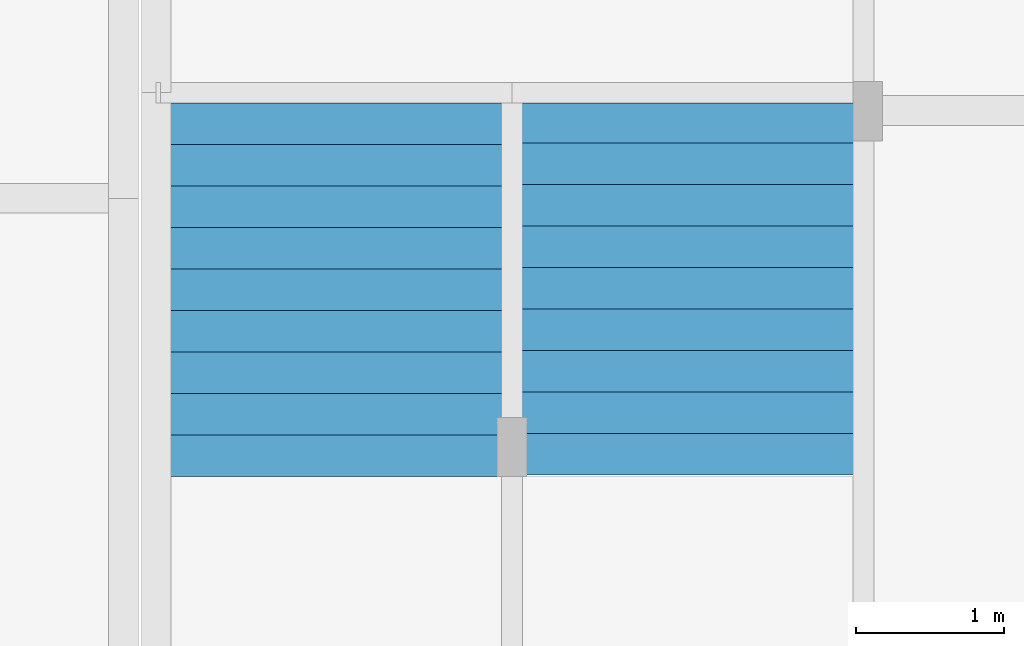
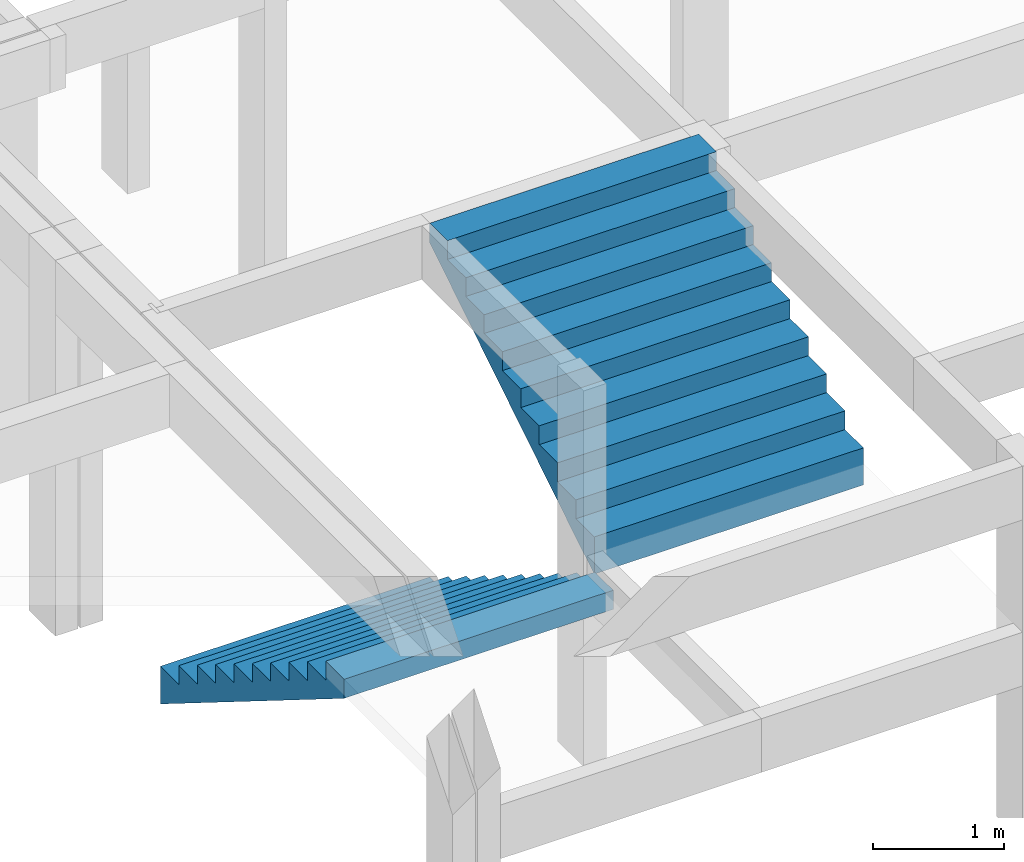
# One storey, part 5 of 5: 2 stair flights.
"""IFC4 building model written with IfcOpenShell, lengths in centimetres."""

from ifc_helpers import new_model, si_unit, derived_unit, frame, origin, origin_with_axes, place, context, project, spatial, faceted_brep, material, element, save


model = new_model("IFC4")

# Units and contexts
model_context = context("Model", 3, precision=1e-05, world=origin_with_axes(), identifier="Body")
ifc_project = project(units=[si_unit("LENGTHUNIT", "METRE", prefix="CENTI"), si_unit("VOLUMEUNIT", "CUBIC_METRE"), si_unit("AREAUNIT", "SQUARE_METRE"), si_unit("POWERUNIT", "WATT"), si_unit("LUMINOUSFLUXUNIT", "LUMEN"), si_unit("ELECTRICCURRENTUNIT", "AMPERE"), si_unit("PRESSUREUNIT", "PASCAL", prefix="KILO"), si_unit("MASSUNIT", "GRAM", prefix="KILO"), si_unit("PLANEANGLEUNIT", "RADIAN"), derived_unit("VOLUMETRICFLOWRATEUNIT", [(si_unit("LENGTHUNIT", "METRE"), 3), (si_unit("TIMEUNIT", "SECOND"), -1)])], contexts=[model_context])

# Site, building, storey
site_placement = place(None, origin_with_axes())
site = spatial("IfcSite", under=ifc_project, at=site_placement)
building_placement = place(site_placement, origin())
building = spatial("IfcBuilding", under=site, at=building_placement)
placement_1 = place(building_placement, origin_with_axes())
placement_2 = place(placement_1, frame((0.0, 0.0, 550.0), z_axis=(0.0, 0.0, 1.0), x_axis=(1.0, 0.0, 0.0)))
storey_placement = place(placement_2, frame((0.0, 0.0, 350.0), z_axis=(0.0, 0.0, 1.0), x_axis=(1.0, 0.0, 0.0)))
storey = spatial("IfcBuildingStorey", under=building, at=storey_placement, Name="1º PAV.", CompositionType="ELEMENT", Elevation=900.0)

# Stair flights
ifc_material = material(Name="Concreto")
stair_flight_1_placement = place(storey_placement, frame((2785.1, -978.1, -172.0), z_axis=(0.0, 0.0, 1.0), x_axis=(1.0, 0.0, 0.0)))
element("IfcStairFlight", 1, at=stair_flight_1_placement, inside=storey, material=ifc_material, Name="LE1", NumberOfRisers=0, NumberOfTreads=0, context=model_context, shape_type="Brep", body=[
    faceted_brep([(118.5, -140.0, 0.0), (118.5, -112.0, 0.0), (-118.5, -112.0, 0.0), (-118.5, -140.0, 0.0), (118.5, -112.0, -35.188714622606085), (118.5, -140.0, -17.688714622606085), (-118.5, -140.0, -17.688714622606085), (-118.5, -112.0, -35.188714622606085), (118.5, -140.0, -17.688714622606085), (118.5, -140.0, 0.0), (-118.5, -140.0, 0.0), (-118.5, -140.0, -17.688714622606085), (118.5, -112.0, 0.0), (118.5, -112.0, -35.188714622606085), (-118.5, -112.0, -35.188714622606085), (-118.5, -112.0, 0.0), (-118.5, -112.0, -35.188714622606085), (-118.5, -140.0, -17.688714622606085), (-118.5, -140.0, 0.0), (-118.5, -112.0, 0.0), (118.5, -112.0, -35.188714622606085), (118.5, -112.0, 0.0), (118.5, -140.0, 0.0), (118.5, -140.0, -17.688714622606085), (118.5, -112.0, -17.5), (118.5, -84.0, -17.5), (-118.5, -84.0, -17.5), (-118.5, -112.0, -17.5), (118.5, -84.0, -52.688714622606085), (118.5, -112.0, -35.188714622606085), (-118.5, -112.0, -35.188714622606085), (-118.5, -84.0, -52.688714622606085), (118.5, -112.0, -35.188714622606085), (118.5, -112.0, -17.5), (-118.5, -112.0, -17.5), (-118.5, -112.0, -35.188714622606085), (118.5, -84.0, -17.5), (118.5, -84.0, -52.688714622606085), (-118.5, -84.0, -52.688714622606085), (-118.5, -84.0, -17.5), (-118.5, -84.0, -52.688714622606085), (-118.5, -112.0, -35.188714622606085), (-118.5, -112.0, -17.5), (-118.5, -84.0, -17.5), (118.5, -84.0, -52.688714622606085), (118.5, -84.0, -17.5), (118.5, -112.0, -17.5), (118.5, -112.0, -35.188714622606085), (118.5, -84.0, -35.0), (118.5, -56.0, -35.0), (-118.5, -56.0, -35.0), (-118.5, -84.0, -35.0), (118.5, -56.0, -70.18871462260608), (118.5, -84.0, -52.688714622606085), (-118.5, -84.0, -52.688714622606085), (-118.5, -56.0, -70.18871462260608), (118.5, -84.0, -52.688714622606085), (118.5, -84.0, -35.0), (-118.5, -84.0, -35.0), (-118.5, -84.0, -52.688714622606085), (118.5, -56.0, -35.0), (118.5, -56.0, -70.18871462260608), (-118.5, -56.0, -70.18871462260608), (-118.5, -56.0, -35.0), (-118.5, -56.0, -70.18871462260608), (-118.5, -84.0, -52.688714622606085), (-118.5, -84.0, -35.0), (-118.5, -56.0, -35.0), (118.5, -56.0, -70.18871462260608), (118.5, -56.0, -35.0), (118.5, -84.0, -35.0), (118.5, -84.0, -52.688714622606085), (118.5, -56.0, -52.5), (118.5, -28.0, -52.5), (-118.5, -28.0, -52.5), (-118.5, -56.0, -52.5), (118.5, -28.0, -87.68871462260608), (118.5, -56.0, -70.18871462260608), (-118.5, -56.0, -70.18871462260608), (-118.5, -28.0, -87.68871462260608), (118.5, -56.0, -70.18871462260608), (118.5, -56.0, -52.5), (-118.5, -56.0, -52.5), (-118.5, -56.0, -70.18871462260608), (118.5, -28.0, -52.5), (118.5, -28.0, -87.68871462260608), (-118.5, -28.0, -87.68871462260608), (-118.5, -28.0, -52.5), (-118.5, -28.0, -87.68871462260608), (-118.5, -56.0, -70.18871462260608), (-118.5, -56.0, -52.5), (-118.5, -28.0, -52.5), (118.5, -28.0, -87.68871462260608), (118.5, -28.0, -52.5), (118.5, -56.0, -52.5), (118.5, -56.0, -70.18871462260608), (118.5, -28.0, -70.0), (118.5, 0.0, -70.0), (-118.5, 0.0, -70.0), (-118.5, -28.0, -70.0), (118.5, 0.0, -105.18871462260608), (118.5, -28.0, -87.68871462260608), (-118.5, -28.0, -87.68871462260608), (-118.5, 0.0, -105.18871462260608), (118.5, -28.0, -87.68871462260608), (118.5, -28.0, -70.0), (-118.5, -28.0, -70.0), (-118.5, -28.0, -87.68871462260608), (118.5, 0.0, -70.0), (118.5, 0.0, -105.18871462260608), (-118.5, 0.0, -105.18871462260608), (-118.5, 0.0, -70.0), (-118.5, 0.0, -105.18871462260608), (-118.5, -28.0, -87.68871462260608), (-118.5, -28.0, -70.0), (-118.5, 0.0, -70.0), (118.5, 0.0, -105.18871462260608), (118.5, 0.0, -70.0), (118.5, -28.0, -70.0), (118.5, -28.0, -87.68871462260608), (118.5, 0.0, -87.5), (118.5, 28.0, -87.5), (-118.5, 28.0, -87.5), (-118.5, 0.0, -87.5), (118.5, 28.0, -122.68871462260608), (118.5, 0.0, -105.18871462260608), (-118.5, 0.0, -105.18871462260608), (-118.5, 28.0, -122.68871462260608), (118.5, 0.0, -105.18871462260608), (118.5, 0.0, -87.5), (-118.5, 0.0, -87.5), (-118.5, 0.0, -105.18871462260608), (118.5, 28.0, -87.5), (118.5, 28.0, -122.68871462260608), (-118.5, 28.0, -122.68871462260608), (-118.5, 28.0, -87.5), (-118.5, 28.0, -122.68871462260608), (-118.5, 0.0, -105.18871462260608), (-118.5, 0.0, -87.5), (-118.5, 28.0, -87.5), (118.5, 28.0, -122.68871462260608), (118.5, 28.0, -87.5), (118.5, 0.0, -87.5), (118.5, 0.0, -105.18871462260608), (118.5, 28.0, -105.0), (118.5, 56.0, -105.0), (-118.5, 56.0, -105.0), (-118.5, 28.0, -105.0), (118.5, 56.0, -140.18871462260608), (118.5, 28.0, -122.68871462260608), (-118.5, 28.0, -122.68871462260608), (-118.5, 56.0, -140.18871462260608), (118.5, 28.0, -122.68871462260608), (118.5, 28.0, -105.0), (-118.5, 28.0, -105.0), (-118.5, 28.0, -122.68871462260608), (118.5, 56.0, -105.0), (118.5, 56.0, -140.18871462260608), (-118.5, 56.0, -140.18871462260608), (-118.5, 56.0, -105.0), (-118.5, 56.0, -140.18871462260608), (-118.5, 28.0, -122.68871462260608), (-118.5, 28.0, -105.0), (-118.5, 56.0, -105.0), (118.5, 56.0, -140.18871462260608), (118.5, 56.0, -105.0), (118.5, 28.0, -105.0), (118.5, 28.0, -122.68871462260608), (118.5, 56.0, -122.5), (118.5, 84.0, -122.5), (-118.5, 84.0, -122.5), (-118.5, 56.0, -122.5), (118.5, 84.0, -157.68871462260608), (118.5, 56.0, -140.18871462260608), (-118.5, 56.0, -140.18871462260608), (-118.5, 84.0, -157.68871462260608), (118.5, 56.0, -140.18871462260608), (118.5, 56.0, -122.5), (-118.5, 56.0, -122.5), (-118.5, 56.0, -140.18871462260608), (118.5, 84.0, -122.5), (118.5, 84.0, -157.68871462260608), (-118.5, 84.0, -157.68871462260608), (-118.5, 84.0, -122.5), (-118.5, 84.0, -157.68871462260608), (-118.5, 56.0, -140.18871462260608), (-118.5, 56.0, -122.5), (-118.5, 84.0, -122.5), (118.5, 84.0, -157.68871462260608), (118.5, 84.0, -122.5), (118.5, 56.0, -122.5), (118.5, 56.0, -140.18871462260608), (118.5, 84.0, -140.0), (118.5, 112.0, -140.0), (-118.5, 112.0, -140.0), (-118.5, 84.0, -140.0), (118.5, 112.0, -175.18871462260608), (118.5, 84.0, -157.68871462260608), (-118.5, 84.0, -157.68871462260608), (-118.5, 112.0, -175.18871462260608), (118.5, 84.0, -157.68871462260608), (118.5, 84.0, -140.0), (-118.5, 84.0, -140.0), (-118.5, 84.0, -157.68871462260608), (118.5, 112.0, -140.0), (118.5, 112.0, -175.18871462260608), (-118.5, 112.0, -175.18871462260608), (-118.5, 112.0, -140.0), (-118.5, 112.0, -175.18871462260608), (-118.5, 84.0, -157.68871462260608), (-118.5, 84.0, -140.0), (-118.5, 112.0, -140.0), (118.5, 112.0, -175.18871462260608), (118.5, 112.0, -140.0), (118.5, 84.0, -140.0), (118.5, 84.0, -157.68871462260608), (118.5, 112.0, -157.5), (118.5, 140.0, -157.5), (-118.5, 140.0, -157.5), (-118.5, 112.0, -157.5), (118.5, 140.0, -192.68871462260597), (118.5, 112.0, -175.18871462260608), (-118.5, 112.0, -175.18871462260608), (-118.5, 140.0, -192.68871462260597), (118.5, 112.0, -175.18871462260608), (118.5, 112.0, -157.5), (-118.5, 112.0, -157.5), (-118.5, 112.0, -175.18871462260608), (118.5, 140.0, -157.5), (118.5, 140.0, -192.68871462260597), (-118.5, 140.0, -192.68871462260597), (-118.5, 140.0, -157.5), (-118.5, 140.0, -192.68871462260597), (-118.5, 112.0, -175.18871462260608), (-118.5, 112.0, -157.5), (-118.5, 140.0, -157.5), (118.5, 140.0, -192.68871462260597), (118.5, 140.0, -157.5), (118.5, 112.0, -157.5), (118.5, 112.0, -175.18871462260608)], [[[0, 1, 2, 3]], [[4, 5, 6, 7]], [[8, 9, 10, 11]], [[12, 13, 14, 15]], [[16, 17, 18, 19]], [[20, 21, 22, 23]], [[24, 25, 26, 27]], [[28, 29, 30, 31]], [[32, 33, 34, 35]], [[36, 37, 38, 39]], [[40, 41, 42, 43]], [[44, 45, 46, 47]], [[48, 49, 50, 51]], [[52, 53, 54, 55]], [[56, 57, 58, 59]], [[60, 61, 62, 63]], [[64, 65, 66, 67]], [[68, 69, 70, 71]], [[72, 73, 74, 75]], [[76, 77, 78, 79]], [[80, 81, 82, 83]], [[84, 85, 86, 87]], [[88, 89, 90, 91]], [[92, 93, 94, 95]], [[96, 97, 98, 99]], [[100, 101, 102, 103]], [[104, 105, 106, 107]], [[108, 109, 110, 111]], [[112, 113, 114, 115]], [[116, 117, 118, 119]], [[120, 121, 122, 123]], [[124, 125, 126, 127]], [[128, 129, 130, 131]], [[132, 133, 134, 135]], [[136, 137, 138, 139]], [[140, 141, 142, 143]], [[144, 145, 146, 147]], [[148, 149, 150, 151]], [[152, 153, 154, 155]], [[156, 157, 158, 159]], [[160, 161, 162, 163]], [[164, 165, 166, 167]], [[168, 169, 170, 171]], [[172, 173, 174, 175]], [[176, 177, 178, 179]], [[180, 181, 182, 183]], [[184, 185, 186, 187]], [[188, 189, 190, 191]], [[192, 193, 194, 195]], [[196, 197, 198, 199]], [[200, 201, 202, 203]], [[204, 205, 206, 207]], [[208, 209, 210, 211]], [[212, 213, 214, 215]], [[216, 217, 218, 219]], [[220, 221, 222, 223]], [[224, 225, 226, 227]], [[228, 229, 230, 231]], [[232, 233, 234, 235]], [[236, 237, 238, 239]]]),
])
stair_flight_2_placement = place(storey_placement, frame((3022.1, -963.6, 0.0), z_axis=(0.0, 0.0, 1.0), x_axis=(1.0, 0.0, 0.0)))
element("IfcStairFlight", 2, at=stair_flight_2_placement, inside=storey, material=ifc_material, Name="LE4", NumberOfRisers=0, NumberOfTreads=0, context=model_context, shape_type="Brep", body=[
    faceted_brep([(-118.5, 125.5, 0.0), (-118.5, 98.5, 0.0), (118.5, 98.5, 0.0), (118.5, 125.5, 0.0), (-118.5, 98.5, -35.188714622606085), (-118.5, 125.5, -18.313714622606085), (118.5, 125.5, -18.313714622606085), (118.5, 98.5, -35.188714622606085), (-118.5, 125.5, -18.313714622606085), (-118.5, 125.5, 0.0), (118.5, 125.5, 0.0), (118.5, 125.5, -18.313714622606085), (-118.5, 98.5, 0.0), (-118.5, 98.5, -35.188714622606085), (118.5, 98.5, -35.188714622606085), (118.5, 98.5, 0.0), (118.5, 98.5, -35.188714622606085), (118.5, 125.5, -18.313714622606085), (118.5, 125.5, 0.0), (118.5, 98.5, 0.0), (-118.5, 98.5, -35.188714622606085), (-118.5, 98.5, 0.0), (-118.5, 125.5, 0.0), (-118.5, 125.5, -18.313714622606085), (-118.5, 98.5, -17.5), (-118.5, 70.5, -17.5), (118.5, 70.5, -17.5), (118.5, 98.5, -17.5), (-118.5, 70.5, -52.688714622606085), (-118.5, 98.5, -35.188714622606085), (118.5, 98.5, -35.188714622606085), (118.5, 70.5, -52.688714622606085), (-118.5, 98.5, -35.188714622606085), (-118.5, 98.5, -17.5), (118.5, 98.5, -17.5), (118.5, 98.5, -35.188714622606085), (-118.5, 70.5, -17.5), (-118.5, 70.5, -52.688714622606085), (118.5, 70.5, -52.688714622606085), (118.5, 70.5, -17.5), (118.5, 70.5, -52.688714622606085), (118.5, 98.5, -35.188714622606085), (118.5, 98.5, -17.5), (118.5, 70.5, -17.5), (-118.5, 70.5, -52.688714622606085), (-118.5, 70.5, -17.5), (-118.5, 98.5, -17.5), (-118.5, 98.5, -35.188714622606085), (-118.5, 70.5, -35.0), (-118.5, 42.5, -35.0), (118.5, 42.5, -35.0), (118.5, 70.5, -35.0), (-118.5, 42.5, -70.18871462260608), (-118.5, 70.5, -52.688714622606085), (118.5, 70.5, -52.688714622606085), (118.5, 42.5, -70.18871462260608), (-118.5, 70.5, -52.688714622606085), (-118.5, 70.5, -35.0), (118.5, 70.5, -35.0), (118.5, 70.5, -52.688714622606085), (-118.5, 42.5, -35.0), (-118.5, 42.5, -70.18871462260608), (118.5, 42.5, -70.18871462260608), (118.5, 42.5, -35.0), (118.5, 42.5, -70.18871462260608), (118.5, 70.5, -52.688714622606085), (118.5, 70.5, -35.0), (118.5, 42.5, -35.0), (-118.5, 42.5, -70.18871462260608), (-118.5, 42.5, -35.0), (-118.5, 70.5, -35.0), (-118.5, 70.5, -52.688714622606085), (-118.5, 42.5, -52.5), (-118.5, 14.5, -52.5), (118.5, 14.5, -52.5), (118.5, 42.5, -52.5), (-118.5, 14.5, -87.68871462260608), (-118.5, 42.5, -70.18871462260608), (118.5, 42.5, -70.18871462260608), (118.5, 14.5, -87.68871462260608), (-118.5, 42.5, -70.18871462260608), (-118.5, 42.5, -52.5), (118.5, 42.5, -52.5), (118.5, 42.5, -70.18871462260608), (-118.5, 14.5, -52.5), (-118.5, 14.5, -87.68871462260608), (118.5, 14.5, -87.68871462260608), (118.5, 14.5, -52.5), (118.5, 14.5, -87.68871462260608), (118.5, 42.5, -70.18871462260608), (118.5, 42.5, -52.5), (118.5, 14.5, -52.5), (-118.5, 14.5, -87.68871462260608), (-118.5, 14.5, -52.5), (-118.5, 42.5, -52.5), (-118.5, 42.5, -70.18871462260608), (-118.5, 14.5, -70.0), (-118.5, -13.5, -70.0), (118.5, -13.5, -70.0), (118.5, 14.5, -70.0), (-118.5, -13.5, -105.18871462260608), (-118.5, 14.5, -87.68871462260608), (118.5, 14.5, -87.68871462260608), (118.5, -13.5, -105.18871462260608), (-118.5, 14.5, -87.68871462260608), (-118.5, 14.5, -70.0), (118.5, 14.5, -70.0), (118.5, 14.5, -87.68871462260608), (-118.5, -13.5, -70.0), (-118.5, -13.5, -105.18871462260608), (118.5, -13.5, -105.18871462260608), (118.5, -13.5, -70.0), (118.5, -13.5, -105.18871462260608), (118.5, 14.5, -87.68871462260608), (118.5, 14.5, -70.0), (118.5, -13.5, -70.0), (-118.5, -13.5, -105.18871462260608), (-118.5, -13.5, -70.0), (-118.5, 14.5, -70.0), (-118.5, 14.5, -87.68871462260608), (-118.5, -13.5, -87.5), (-118.5, -41.5, -87.5), (118.5, -41.5, -87.5), (118.5, -13.5, -87.5), (-118.5, -41.5, -122.68871462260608), (-118.5, -13.5, -105.18871462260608), (118.5, -13.5, -105.18871462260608), (118.5, -41.5, -122.68871462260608), (-118.5, -13.5, -105.18871462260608), (-118.5, -13.5, -87.5), (118.5, -13.5, -87.5), (118.5, -13.5, -105.18871462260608), (-118.5, -41.5, -87.5), (-118.5, -41.5, -122.68871462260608), (118.5, -41.5, -122.68871462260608), (118.5, -41.5, -87.5), (118.5, -41.5, -122.68871462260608), (118.5, -13.5, -105.18871462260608), (118.5, -13.5, -87.5), (118.5, -41.5, -87.5), (-118.5, -41.5, -122.68871462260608), (-118.5, -41.5, -87.5), (-118.5, -13.5, -87.5), (-118.5, -13.5, -105.18871462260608), (-118.5, -41.5, -105.0), (-118.5, -69.5, -105.0), (118.5, -69.5, -105.0), (118.5, -41.5, -105.0), (-118.5, -69.5, -140.18871462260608), (-118.5, -41.5, -122.68871462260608), (118.5, -41.5, -122.68871462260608), (118.5, -69.5, -140.18871462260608), (-118.5, -41.5, -122.68871462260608), (-118.5, -41.5, -105.0), (118.5, -41.5, -105.0), (118.5, -41.5, -122.68871462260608), (-118.5, -69.5, -105.0), (-118.5, -69.5, -140.18871462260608), (118.5, -69.5, -140.18871462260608), (118.5, -69.5, -105.0), (118.5, -69.5, -140.18871462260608), (118.5, -41.5, -122.68871462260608), (118.5, -41.5, -105.0), (118.5, -69.5, -105.0), (-118.5, -69.5, -140.18871462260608), (-118.5, -69.5, -105.0), (-118.5, -41.5, -105.0), (-118.5, -41.5, -122.68871462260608), (-118.5, -69.5, -122.5), (-118.5, -97.5, -122.5), (118.5, -97.5, -122.5), (118.5, -69.5, -122.5), (-118.5, -97.5, -157.68871462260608), (-118.5, -69.5, -140.18871462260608), (118.5, -69.5, -140.18871462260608), (118.5, -97.5, -157.68871462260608), (-118.5, -69.5, -140.18871462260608), (-118.5, -69.5, -122.5), (118.5, -69.5, -122.5), (118.5, -69.5, -140.18871462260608), (-118.5, -97.5, -122.5), (-118.5, -97.5, -157.68871462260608), (118.5, -97.5, -157.68871462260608), (118.5, -97.5, -122.5), (118.5, -97.5, -157.68871462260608), (118.5, -69.5, -140.18871462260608), (118.5, -69.5, -122.5), (118.5, -97.5, -122.5), (-118.5, -97.5, -157.68871462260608), (-118.5, -97.5, -122.5), (-118.5, -69.5, -122.5), (-118.5, -69.5, -140.18871462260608), (-118.5, -97.5, -140.0), (-118.5, -125.5, -140.0), (118.5, -125.5, -140.0), (118.5, -97.5, -140.0), (-118.5, -125.5, -174.5637146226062), (-118.5, -97.5, -157.68871462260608), (118.5, -97.5, -157.68871462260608), (118.5, -125.5, -174.5637146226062), (-118.5, -97.5, -157.68871462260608), (-118.5, -97.5, -140.0), (118.5, -97.5, -140.0), (118.5, -97.5, -157.68871462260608), (-118.5, -125.5, -140.0), (-118.5, -125.5, -174.5637146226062), (118.5, -125.5, -174.5637146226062), (118.5, -125.5, -140.0), (118.5, -125.5, -174.5637146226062), (118.5, -97.5, -157.68871462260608), (118.5, -97.5, -140.0), (118.5, -125.5, -140.0), (-118.5, -125.5, -174.5637146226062), (-118.5, -125.5, -140.0), (-118.5, -97.5, -140.0), (-118.5, -97.5, -157.68871462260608)], [[[0, 1, 2, 3]], [[4, 5, 6, 7]], [[8, 9, 10, 11]], [[12, 13, 14, 15]], [[16, 17, 18, 19]], [[20, 21, 22, 23]], [[24, 25, 26, 27]], [[28, 29, 30, 31]], [[32, 33, 34, 35]], [[36, 37, 38, 39]], [[40, 41, 42, 43]], [[44, 45, 46, 47]], [[48, 49, 50, 51]], [[52, 53, 54, 55]], [[56, 57, 58, 59]], [[60, 61, 62, 63]], [[64, 65, 66, 67]], [[68, 69, 70, 71]], [[72, 73, 74, 75]], [[76, 77, 78, 79]], [[80, 81, 82, 83]], [[84, 85, 86, 87]], [[88, 89, 90, 91]], [[92, 93, 94, 95]], [[96, 97, 98, 99]], [[100, 101, 102, 103]], [[104, 105, 106, 107]], [[108, 109, 110, 111]], [[112, 113, 114, 115]], [[116, 117, 118, 119]], [[120, 121, 122, 123]], [[124, 125, 126, 127]], [[128, 129, 130, 131]], [[132, 133, 134, 135]], [[136, 137, 138, 139]], [[140, 141, 142, 143]], [[144, 145, 146, 147]], [[148, 149, 150, 151]], [[152, 153, 154, 155]], [[156, 157, 158, 159]], [[160, 161, 162, 163]], [[164, 165, 166, 167]], [[168, 169, 170, 171]], [[172, 173, 174, 175]], [[176, 177, 178, 179]], [[180, 181, 182, 183]], [[184, 185, 186, 187]], [[188, 189, 190, 191]], [[192, 193, 194, 195]], [[196, 197, 198, 199]], [[200, 201, 202, 203]], [[204, 205, 206, 207]], [[208, 209, 210, 211]], [[212, 213, 214, 215]]]),
])

save(model, "model.ifc")
